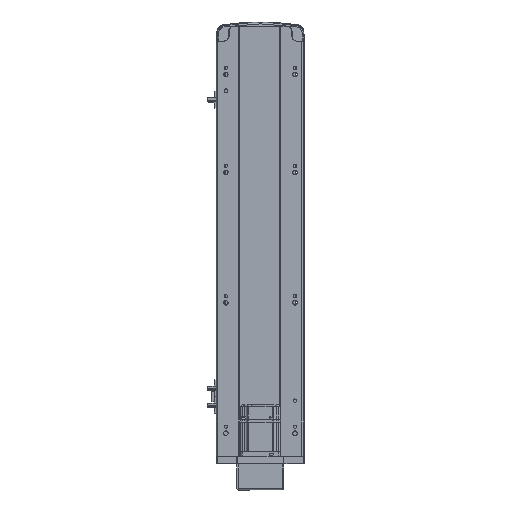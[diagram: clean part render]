
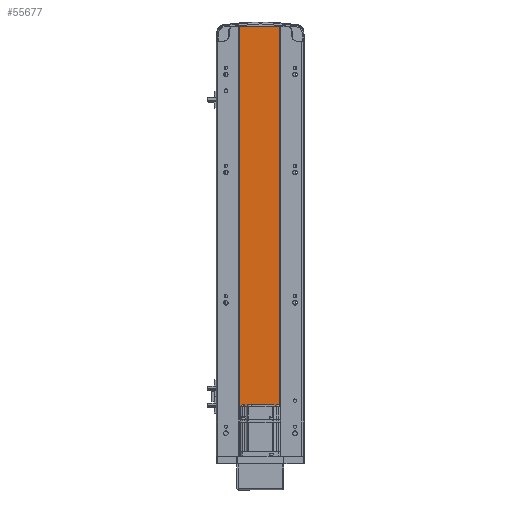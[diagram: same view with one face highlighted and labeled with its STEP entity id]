
A CAD part, front view. The second image highlights one B-rep face of the part: STEP entity #55677.
In plain terms, the highlighted planar face has unit normal (0, -1, 0).
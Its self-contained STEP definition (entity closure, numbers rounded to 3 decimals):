
#1588 = VECTOR ( 'NONE', #47184, 1000. ) ;
#2180 = VECTOR ( 'NONE', #8542, 1000. ) ;
#5862 = ORIENTED_EDGE ( 'NONE', *, *, #26492, .T. ) ;
#7461 = VERTEX_POINT ( 'NONE', #18852 ) ;
#8542 = DIRECTION ( 'NONE',  ( 1., 0., 0. ) ) ;
#9975 = VERTEX_POINT ( 'NONE', #23114 ) ;
#13062 = CARTESIAN_POINT ( 'NONE',  ( -32., 1., 659. ) ) ;
#17255 = EDGE_CURVE ( 'NONE', #20254, #32254, #39927, .T. ) ;
#17296 = DIRECTION ( 'NONE',  ( 0., 1., 0. ) ) ;
#17545 = AXIS2_PLACEMENT_3D ( 'NONE', #13062, #17296, #48093 ) ;
#18852 = CARTESIAN_POINT ( 'NONE',  ( 30., 1., 0. ) ) ;
#19185 = CARTESIAN_POINT ( 'NONE',  ( -32., 1., 0. ) ) ;
#20254 = VERTEX_POINT ( 'NONE', #27497 ) ;
#23114 = CARTESIAN_POINT ( 'NONE',  ( 30., 1., 659. ) ) ;
#25950 = PLANE ( 'NONE',  #17545 ) ;
#26492 = EDGE_CURVE ( 'NONE', #32254, #7461, #48284, .T. ) ;
#27497 = CARTESIAN_POINT ( 'NONE',  ( -32., 1., 659. ) ) ;
#29662 = CARTESIAN_POINT ( 'NONE',  ( 30., 1., 659. ) ) ;
#30063 = CARTESIAN_POINT ( 'NONE',  ( -32., 1., 0. ) ) ;
#32195 = CARTESIAN_POINT ( 'NONE',  ( -32., 1., 659. ) ) ;
#32254 = VERTEX_POINT ( 'NONE', #19185 ) ;
#32813 = ORIENTED_EDGE ( 'NONE', *, *, #54073, .F. ) ;
#33348 = EDGE_LOOP ( 'NONE', ( #5862, #37387, #32813, #44638 ) ) ;
#35124 = VECTOR ( 'NONE', #45496, 1000. ) ;
#37387 = ORIENTED_EDGE ( 'NONE', *, *, #45438, .F. ) ;
#38854 = CARTESIAN_POINT ( 'NONE',  ( -32., 1., 659. ) ) ;
#39927 = LINE ( 'NONE', #32195, #35124 ) ;
#43550 = LINE ( 'NONE', #38854, #1588 ) ;
#44638 = ORIENTED_EDGE ( 'NONE', *, *, #17255, .T. ) ;
#45438 = EDGE_CURVE ( 'NONE', #9975, #7461, #48500, .T. ) ;
#45496 = DIRECTION ( 'NONE',  ( 0., 0., -1. ) ) ;
#47184 = DIRECTION ( 'NONE',  ( 1., 0., 0. ) ) ;
#48093 = DIRECTION ( 'NONE',  ( -1., 0., 0. ) ) ;
#48284 = LINE ( 'NONE', #30063, #2180 ) ;
#48500 = LINE ( 'NONE', #29662, #52655 ) ;
#51233 = FACE_OUTER_BOUND ( 'NONE', #33348, .T. ) ;
#51841 = DIRECTION ( 'NONE',  ( 0., 0., -1. ) ) ;
#52655 = VECTOR ( 'NONE', #51841, 1000. ) ;
#54073 = EDGE_CURVE ( 'NONE', #20254, #9975, #43550, .T. ) ;
#55677 = ADVANCED_FACE ( 'NONE', ( #51233 ), #25950, .F. ) ;
